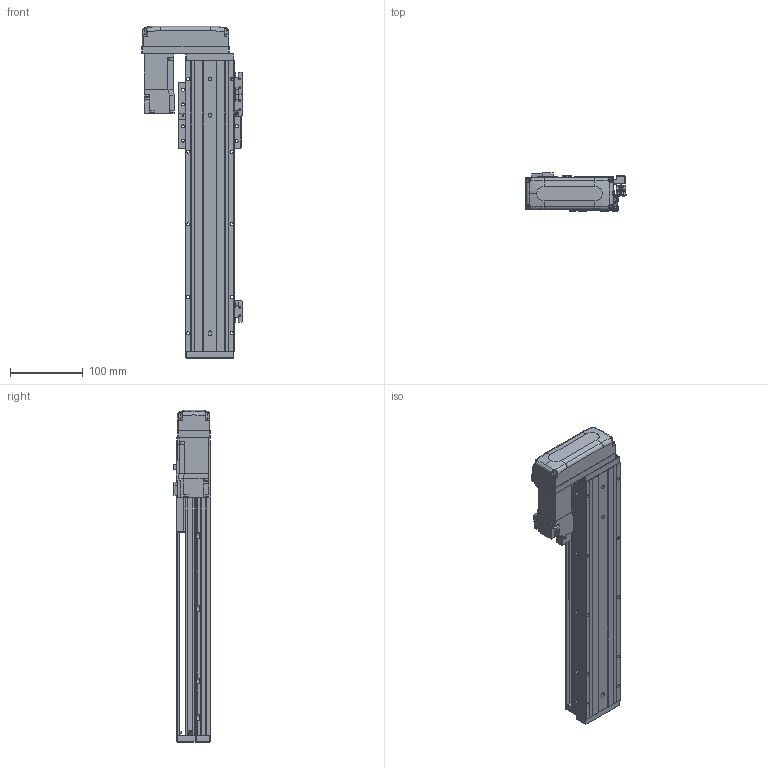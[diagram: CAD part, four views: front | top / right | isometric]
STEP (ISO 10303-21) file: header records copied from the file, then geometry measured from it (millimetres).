
FILE_DESCRIPTION (( 'STEP AP203' ), '1' );
FILE_NAME ('KTHAL60-250-BR-M10-C4L.step', '2022-03-19T08:43:58', ( '微软用户' ), ( '微软中国' ), 'SwSTEP 2.0', 'SolidWorks 2020', '' );
FILE_SCHEMA (( 'CONFIG_CONTROL_DESIGN' ));
Length unit declared in the file: millimetre
Products named in the file (18): HG-KR13（三菱）; KTHA60-001_400; CTHA60-017; CTHA60-015-2_CTHA60-015-2; KTHLA60-002; CTHA60-021; CTHA60-033; KTHA60-004; GBT 70.1-M4×16; GBT 70.1-M3×15; KTHA60-005; GBT77-2000M3-3; KTHAL60-250-BR-M10-C4L; GB¨uT 70.2-M3¡Á5_M3¡Á6; GBT 70.1-M3℅6; GBT 70.3-M3℅6; CTHA60-016; EE_SX911P_R
Assembly tree (51 placements, depth 2):
  KTHAL60-250-BR-M10-C4L
    KTHA60-001_400
    KTHLA60-002
    KTHA60-004
    KTHA60-005
    GB¨uT 70.2-M3¡Á5_M3¡Á6  x5
    GBT 70.3-M3℅6  x4
    EE_SX911P_R  x3
    CTHA60-017  x3
    CTHA60-021  x2
    GBT 70.1-M4×16  x10
    GBT77-2000M3-3  x6
    GBT 70.1-M3℅6  x6
    CTHA60-016
    HG-KR13（三菱）
    CTHA60-015-2_CTHA60-015-2
    CTHA60-033
    GBT 70.1-M3×15  x4
Bounding box: 137.82 x 52.3 x 457 mm (x, y, z)
Volume: 1124770 mm3; surface area: 277146.9 mm2
Topology: 54 solids, 54 shells, 2255 faces, 5331 edges, 3269 vertices
Faces by surface type: plane 1288, cylinder 547, cone 282, torus 98, bspline 26, sphere 14
Entity records: 38701 total; most frequent: CARTESIAN_POINT 7336, DIRECTION 6023, ORIENTED_EDGE 5806, EDGE_CURVE 2903, AXIS2_PLACEMENT_3D 2023, LINE 1977, VECTOR 1977, VERTEX_POINT 1818
